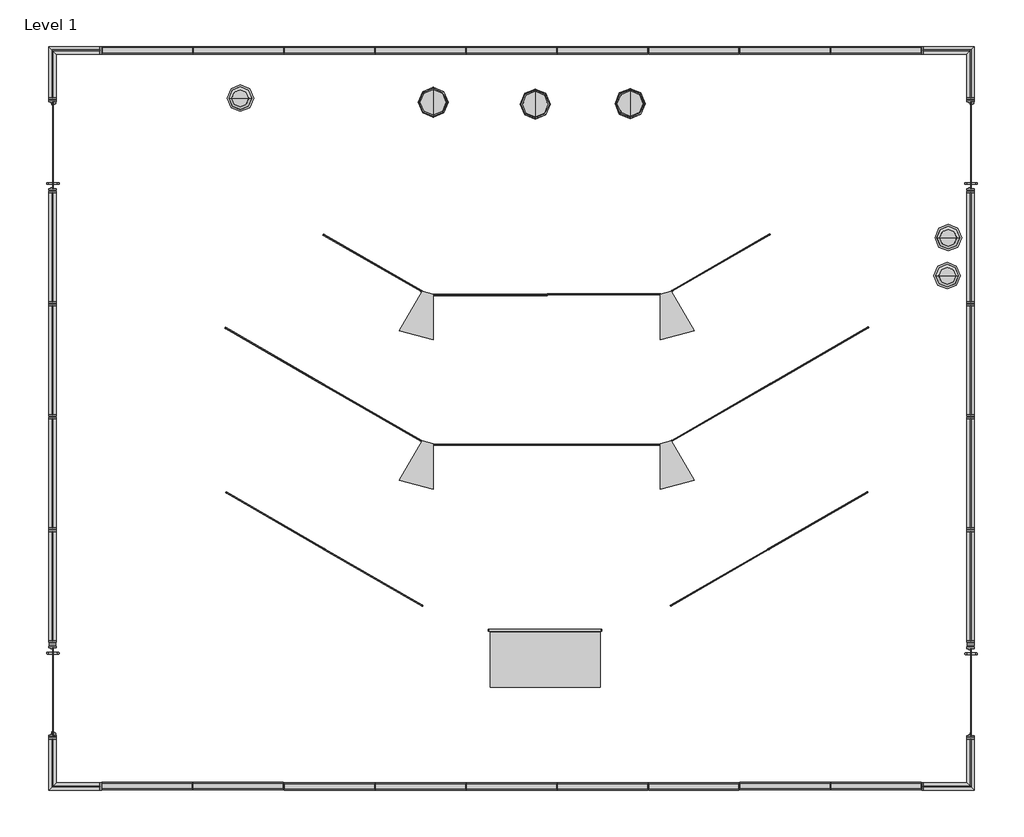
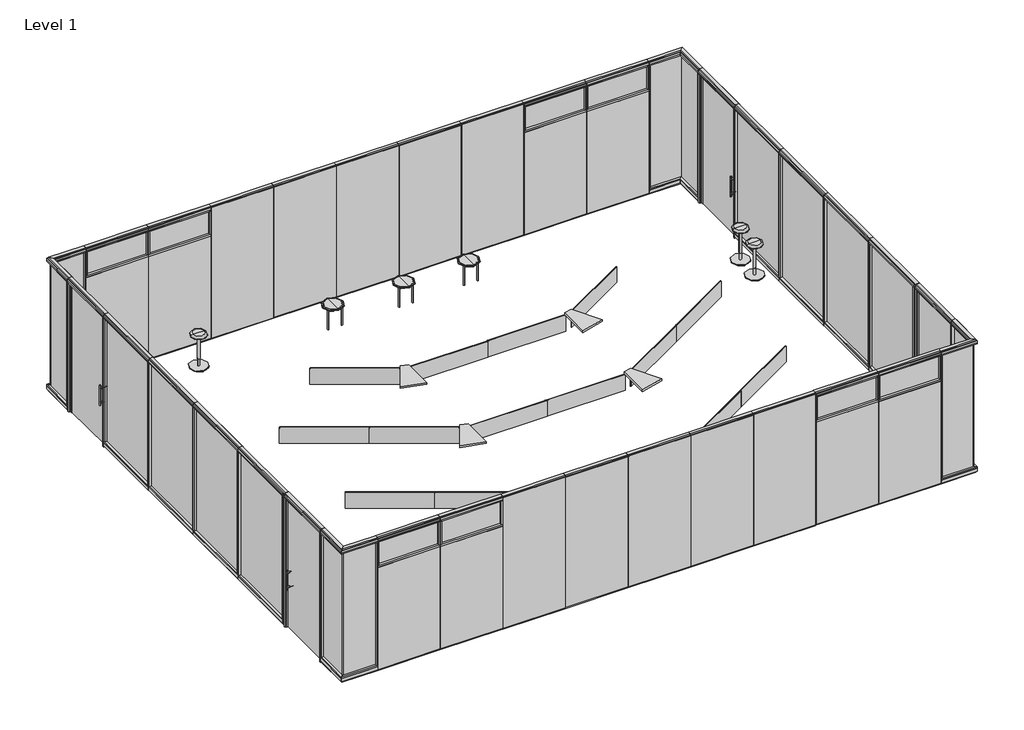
# One storey, incomplete: 60 furniture elements.
"""IFC4 building model written with IfcOpenShell, lengths in millimetres."""

from ifc_helpers import new_model, si_unit, origin, place, context, project, spatial, transform, mapped, element, save
from components import furniture_16in_d_table_f877d0f4, furniture_3abc578a, furniture_bc88773f, furniture_14a34abc, furniture_8766b1b4, furniture_6eaf9f50, furniture_9d4b2f2e, furniture_3334d8ed, furniture_c41c0817, furniture_5523d685, furniture_dead7d80, haworth_belongplus_screen_back_screen_fe709fc9, furniture_c5e95a2a, haworth_planes_modestypanel_screen_50w_13h_a9739d11, haworth_planes_modestypanel_screen_50w_13h_d00a2eeb, haworth_planes_trainingtable_pie_24_deep_1534c981, haworth_planes_trainingtable_pie_24_deep_74494f69, haworth_tilt_stool_tilt_fa742e71

model = new_model("IFC4")

# Units and contexts
model_context = context("Model", 3, world=origin())
ifc_project = project(units=[si_unit("LENGTHUNIT", "METRE", prefix="MILLI")], contexts=[model_context])

# Site, building, storey
site = spatial("IfcSite", under=ifc_project)
building = spatial("IfcBuilding", under=site)
storey = spatial("IfcBuildingStorey", under=building, Name="Level 1", Elevation=0.0)

# Furniture
placement = place(None, origin())
furniture_16in_d_table_shape = furniture_16in_d_table_f877d0f4(model_context)
element("IfcFurniture", 1, ObjectType="Haworth_Openest_SprigTable_Round : 16in D Table", at=placement, inside=storey, context=model_context, shape_type="MappedRepresentation", body=[
    mapped(furniture_16in_d_table_shape, transform((11340.428935, 4077.0260412, 0.0), x_axis=(0.0, 1.0, 0.0), y_axis=(-1.0, 0.0, 0.0), z_axis=(0.0, 0.0, 1.0))),
])
element("IfcFurniture", 2, ObjectType="Haworth_Openest_SprigTable_Round : 16in D Table", at=placement, inside=storey, context=model_context, shape_type="MappedRepresentation", body=[
    mapped(furniture_16in_d_table_shape, transform((12707.6865927, 4052.8008033, 0.0), x_axis=(0.0, 1.0, 0.0), y_axis=(-1.0, 0.0, 0.0), z_axis=(0.0, 0.0, 1.0))),
])
element("IfcFurniture", 3, ObjectType="Haworth_Openest_SprigTable_Round : 16in D Table", at=placement, inside=storey, context=model_context, shape_type="MappedRepresentation", body=[
    mapped(furniture_16in_d_table_shape, transform((13977.9899065, 4059.9192647, 0.0), x_axis=(0.0, 1.0, 0.0), y_axis=(-1.0, 0.0, 0.0), z_axis=(0.0, 0.0, 1.0))),
])
furniture_shape = furniture_3abc578a(model_context)
element("IfcFurniture", 4, ObjectType="Haworth_Enclose_Wall_GlassCorner : 25\" x 108\"_90 Degree", at=placement, inside=storey, context=model_context, shape_type="MappedRepresentation", body=[
    mapped(furniture_shape, transform((6249.2575071, 4407.4937425, 0.0), x_axis=(1.1924877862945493e-08, -0.9999999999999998, 0.0), y_axis=(0.9999999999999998, 1.1924877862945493e-08, 0.0), z_axis=(0.0, 0.0, 1.0))),
])
element("IfcFurniture", 5, ObjectType="Haworth_Enclose_Wall_GlassCorner : 25\" x 108\"_90 Degree", at=placement, inside=storey, context=model_context, shape_type="MappedRepresentation", body=[
    mapped(furniture_shape, transform((18173.5032278, 4767.8126048, 0.0), x_axis=(-0.9999999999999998, -1.1924872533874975e-08, 0.0), y_axis=(1.1924872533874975e-08, -0.9999999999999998, 0.0), z_axis=(0.0, 0.0, 1.0))),
])
element("IfcFurniture", 6, ObjectType="Haworth_Enclose_Wall_GlassCorner : 25\" x 108\"_90 Degree", at=placement, inside=storey, context=model_context, shape_type="MappedRepresentation", body=[
    mapped(furniture_shape, transform((18533.822063, -4718.0330264, 0.0), x_axis=(-1.1924867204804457e-08, 0.9999999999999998, 0.0), y_axis=(-0.9999999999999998, -1.1924867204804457e-08, 0.0), z_axis=(0.0, 0.0, 1.0))),
])
element("IfcFurniture", 7, ObjectType="Haworth_Enclose_Wall_GlassCorner : 25\" x 108\"_90 Degree", at=placement, inside=storey, context=model_context, shape_type="MappedRepresentation", body=[
    mapped(furniture_shape, transform((6609.5763119, -5078.3519553, 0.0), x_axis=(0.9999999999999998, 1.1924861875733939e-08, 0.0), y_axis=(-1.1924861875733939e-08, 0.9999999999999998, 0.0), z_axis=(0.0, 0.0, 1.0))),
])
furniture_2_shape = furniture_bc88773f(model_context)
element("IfcFurniture", 8, ObjectType="Haworth_Enclose_Wall_SolidTransom : 36\" x 108\"", at=placement, inside=storey, context=model_context, shape_type="MappedRepresentation", body=[
    mapped(furniture_2_shape, transform((7570.7762962, -5073.3517604, 0.0), x_axis=(1.0, 0.0, 0.0), y_axis=(0.0, 1.0, 0.0), z_axis=(0.0, 0.0, 1.0))),
])
element("IfcFurniture", 9, ObjectType="Haworth_Enclose_Wall_SolidTransom : 36\" x 108\"", at=placement, inside=storey, context=model_context, shape_type="MappedRepresentation", body=[
    mapped(furniture_2_shape, transform((16113.1763035, -5073.3515245, 0.0), x_axis=(1.0, 0.0, 0.0), y_axis=(0.0, 1.0, 0.0), z_axis=(0.0, 0.0, 1.0))),
])
furniture_3_shape = furniture_14a34abc(model_context)
element("IfcFurniture", 10, ObjectType="Haworth_Enclose_Wall_SolidTransom : 36\" x 108\"", at=placement, inside=storey, context=model_context, shape_type="MappedRepresentation", body=[
    mapped(furniture_3_shape, transform((8669.9032503, -5073.3517604, 0.0), x_axis=(-1.0, 0.0, 0.0), y_axis=(0.0, -1.0, 0.0), z_axis=(0.0, 0.0, 1.0))),
])
element("IfcFurniture", 11, ObjectType="Haworth_Enclose_Wall_SolidTransom : 36\" x 108\"", at=placement, inside=storey, context=model_context, shape_type="MappedRepresentation", body=[
    mapped(furniture_3_shape, transform((17212.3032577, -5073.3515245, 0.0), x_axis=(-1.0, 0.0, 0.0), y_axis=(0.0, -1.0, 0.0), z_axis=(0.0, 0.0, 1.0))),
])
element("IfcFurniture", 12, ObjectType="Haworth_Enclose_Wall_SolidTransom : 36\" x 108\"", at=placement, inside=storey, context=model_context, shape_type="MappedRepresentation", body=[
    mapped(furniture_2_shape, transform((7574.7763041, 4776.8479949, 0.0), x_axis=(1.0, 0.0, 0.0), y_axis=(0.0, 1.0, 0.0), z_axis=(0.0, 0.0, 1.0))),
])
element("IfcFurniture", 13, ObjectType="Haworth_Enclose_Wall_SolidTransom : 36\" x 108\"", at=placement, inside=storey, context=model_context, shape_type="MappedRepresentation", body=[
    mapped(furniture_2_shape, transform((16109.1763129, 4776.847942, 0.0), x_axis=(1.0, 0.0, 0.0), y_axis=(0.0, 1.0, 0.0), z_axis=(0.0, 0.0, 1.0))),
])
element("IfcFurniture", 14, ObjectType="Haworth_Enclose_Wall_SolidTransom : 36\" x 108\"", at=placement, inside=storey, context=model_context, shape_type="MappedRepresentation", body=[
    mapped(furniture_3_shape, transform((8673.9032582, 4776.8479949, 0.0), x_axis=(-1.0, 0.0, 0.0), y_axis=(0.0, -1.0, 0.0), z_axis=(0.0, 0.0, 1.0))),
])
element("IfcFurniture", 15, ObjectType="Haworth_Enclose_Wall_SolidTransom : 36\" x 108\"", at=placement, inside=storey, context=model_context, shape_type="MappedRepresentation", body=[
    mapped(furniture_3_shape, transform((17208.3032671, 4776.847942, 0.0), x_axis=(-1.0, 0.0, 0.0), y_axis=(0.0, -1.0, 0.0), z_axis=(0.0, 0.0, 1.0))),
])
furniture_4_shape = furniture_8766b1b4(model_context)
element("IfcFurniture", 16, ObjectType="Haworth_EncloseFrameless_Door_SingleSwing : 48\" x 108\"", at=placement, inside=storey, context=model_context, shape_type="MappedRepresentation", body=[
    mapped(furniture_4_shape, transform((18533.8217463, 3562.3668493, 0.0), x_axis=(-1.1924849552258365e-08, 0.9999999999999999, 0.0), y_axis=(-0.9999999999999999, -1.1924849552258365e-08, 0.0), z_axis=(0.0, 0.0, 1.0))),
])
element("IfcFurniture", 17, ObjectType="Haworth_EncloseFrameless_Door_SingleSwing : 48\" x 108\"", at=placement, inside=storey, context=model_context, shape_type="MappedRepresentation", body=[
    mapped(furniture_4_shape, transform((6240.2216446, 3562.3668493, 0.0), x_axis=(-1.1924849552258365e-08, 0.9999999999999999, 0.0), y_axis=(-0.9999999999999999, -1.1924849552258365e-08, 0.0), z_axis=(0.0, 0.0, 1.0))),
])
furniture_5_shape = furniture_6eaf9f50(model_context)
element("IfcFurniture", 18, ObjectType="Haworth_EncloseFrameless_Door_SingleSwing : 48\" x 108\"", at=placement, inside=storey, context=model_context, shape_type="MappedRepresentation", body=[
    mapped(furniture_5_shape, transform((18533.8220676, -3881.8934858, 0.0), x_axis=(1.1924849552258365e-08, -0.9999999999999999, 0.0), y_axis=(0.9999999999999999, 1.1924849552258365e-08, 0.0), z_axis=(0.0, 0.0, 1.0))),
])
element("IfcFurniture", 19, ObjectType="Haworth_EncloseFrameless_Door_SingleSwing : 48\" x 108\"", at=placement, inside=storey, context=model_context, shape_type="MappedRepresentation", body=[
    mapped(furniture_5_shape, transform((6240.2216266, -3872.9061982, 0.0), x_axis=(1.1924849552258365e-08, -0.9999999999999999, 0.0), y_axis=(0.9999999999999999, 1.1924849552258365e-08, 0.0), z_axis=(0.0, 0.0, 1.0))),
])
furniture_6_shape = furniture_9d4b2f2e(model_context)
element("IfcFurniture", 20, ObjectType="Haworth_Enclose_Wall_Solid : 48\" x 108\"", at=placement, inside=storey, context=model_context, shape_type="MappedRepresentation", body=[
    mapped(furniture_6_shape, transform((10013.1763041, -5078.3517382, 0.0), x_axis=(1.0, 0.0, 0.0), y_axis=(0.0, 1.0, 0.0), z_axis=(0.0, 0.0, 1.0))),
])
element("IfcFurniture", 21, ObjectType="Haworth_Enclose_Wall_Solid : 48\" x 108\"", at=placement, inside=storey, context=model_context, shape_type="MappedRepresentation", body=[
    mapped(furniture_6_shape, transform((12451.5763041, -5078.3517382, 0.0), x_axis=(1.0, 0.0, 0.0), y_axis=(0.0, 1.0, 0.0), z_axis=(0.0, 0.0, 1.0))),
])
element("IfcFurniture", 22, ObjectType="Haworth_Enclose_Wall_Solid : 48\" x 108\"", at=placement, inside=storey, context=model_context, shape_type="MappedRepresentation", body=[
    mapped(furniture_6_shape, transform((14889.9763041, -5078.3517382, 0.0), x_axis=(1.0, 0.0, 0.0), y_axis=(0.0, 1.0, 0.0), z_axis=(0.0, 0.0, 1.0))),
])
furniture_7_shape = furniture_3334d8ed(model_context)
element("IfcFurniture", 23, ObjectType="Haworth_Enclose_Wall_Solid : 48\" x 108\"", at=placement, inside=storey, context=model_context, shape_type="MappedRepresentation", body=[
    mapped(furniture_7_shape, transform((11112.3032582, -5078.3517382, 0.0), x_axis=(-1.0, 0.0, 0.0), y_axis=(0.0, -1.0, 0.0), z_axis=(0.0, 0.0, 1.0))),
])
element("IfcFurniture", 24, ObjectType="Haworth_Enclose_Wall_Solid : 48\" x 108\"", at=placement, inside=storey, context=model_context, shape_type="MappedRepresentation", body=[
    mapped(furniture_7_shape, transform((13550.7032582, -5078.3517382, 0.0), x_axis=(-1.0, 0.0, 0.0), y_axis=(0.0, -1.0, 0.0), z_axis=(0.0, 0.0, 1.0))),
])
element("IfcFurniture", 25, ObjectType="Haworth_Enclose_Wall_Solid : 48\" x 108\"", at=placement, inside=storey, context=model_context, shape_type="MappedRepresentation", body=[
    mapped(furniture_6_shape, transform((10013.1761192, 4776.847942, 0.0), x_axis=(1.0, 0.0, 0.0), y_axis=(0.0, 1.0, 0.0), z_axis=(0.0, 0.0, 1.0))),
])
element("IfcFurniture", 26, ObjectType="Haworth_Enclose_Wall_Solid : 48\" x 108\"", at=placement, inside=storey, context=model_context, shape_type="MappedRepresentation", body=[
    mapped(furniture_6_shape, transform((12451.5761192, 4776.847942, 0.0), x_axis=(1.0, 0.0, 0.0), y_axis=(0.0, 1.0, 0.0), z_axis=(0.0, 0.0, 1.0))),
])
element("IfcFurniture", 27, ObjectType="Haworth_Enclose_Wall_Solid : 48\" x 108\"", at=placement, inside=storey, context=model_context, shape_type="MappedRepresentation", body=[
    mapped(furniture_6_shape, transform((14889.9761192, 4776.847942, 0.0), x_axis=(1.0, 0.0, 0.0), y_axis=(0.0, 1.0, 0.0), z_axis=(0.0, 0.0, 1.0))),
])
element("IfcFurniture", 28, ObjectType="Haworth_Enclose_Wall_Solid : 48\" x 108\"", at=placement, inside=storey, context=model_context, shape_type="MappedRepresentation", body=[
    mapped(furniture_7_shape, transform((11112.3030733, 4776.847942, 0.0), x_axis=(-1.0, 0.0, 0.0), y_axis=(0.0, -1.0, 0.0), z_axis=(0.0, 0.0, 1.0))),
])
element("IfcFurniture", 29, ObjectType="Haworth_Enclose_Wall_Solid : 48\" x 108\"", at=placement, inside=storey, context=model_context, shape_type="MappedRepresentation", body=[
    mapped(furniture_7_shape, transform((13550.7030733, 4776.847942, 0.0), x_axis=(-1.0, 0.0, 0.0), y_axis=(0.0, -1.0, 0.0), z_axis=(0.0, 0.0, 1.0))),
])
furniture_8_shape = furniture_c41c0817(model_context)
element("IfcFurniture", 30, ObjectType="Haworth_Enclose_Wall_Glass : 60\" x 108\"", at=placement, inside=storey, context=model_context, shape_type="MappedRepresentation", body=[
    mapped(furniture_8_shape, transform((6240.222068, 2193.8172457, 0.0), x_axis=(-1.192487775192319e-08, 0.9999999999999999, 0.0), y_axis=(-0.9999999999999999, -1.192487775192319e-08, 0.0), z_axis=(0.0, 0.0, 1.0))),
])
element("IfcFurniture", 31, ObjectType="Haworth_Enclose_Wall_Glass : 60\" x 108\"", at=placement, inside=storey, context=model_context, shape_type="MappedRepresentation", body=[
    mapped(furniture_8_shape, transform((6240.2221043, -828.7827543, 0.0), x_axis=(-1.19248777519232e-08, 1.0000000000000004, 0.0), y_axis=(-1.0000000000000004, -1.19248777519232e-08, 0.0), z_axis=(0.0, 0.0, 1.0))),
])
element("IfcFurniture", 32, ObjectType="Haworth_Enclose_Wall_Glass : 60\" x 108\"", at=placement, inside=storey, context=model_context, shape_type="MappedRepresentation", body=[
    mapped(furniture_8_shape, transform((18533.8219094, 2193.8172457, 0.0), x_axis=(-1.192487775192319e-08, 0.9999999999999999, 0.0), y_axis=(-0.9999999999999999, -1.192487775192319e-08, 0.0), z_axis=(0.0, 0.0, 1.0))),
])
element("IfcFurniture", 33, ObjectType="Haworth_Enclose_Wall_Glass : 60\" x 108\"", at=placement, inside=storey, context=model_context, shape_type="MappedRepresentation", body=[
    mapped(furniture_8_shape, transform((18533.8219458, -828.7827543, 0.0), x_axis=(-1.19248777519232e-08, 1.0000000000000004, 0.0), y_axis=(-1.0000000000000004, -1.19248777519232e-08, 0.0), z_axis=(0.0, 0.0, 1.0))),
])
furniture_9_shape = furniture_5523d685(model_context)
element("IfcFurniture", 34, ObjectType="Haworth_Enclose_Wall_Glass : 60\" x 108\"", at=placement, inside=storey, context=model_context, shape_type="MappedRepresentation", body=[
    mapped(furniture_9_shape, transform((6240.2220874, 562.4441998, 0.0), x_axis=(1.1924877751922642e-08, -1.0000000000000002, 0.0), y_axis=(1.0000000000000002, 1.1924877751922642e-08, 0.0), z_axis=(0.0, 0.0, 1.0))),
])
element("IfcFurniture", 35, ObjectType="Haworth_Enclose_Wall_Glass : 60\" x 108\"", at=placement, inside=storey, context=model_context, shape_type="MappedRepresentation", body=[
    mapped(furniture_9_shape, transform((18533.8219289, 562.4441998, 0.0), x_axis=(1.1924877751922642e-08, -1.0000000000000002, 0.0), y_axis=(1.0000000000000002, 1.1924877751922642e-08, 0.0), z_axis=(0.0, 0.0, 1.0))),
])
furniture_10_shape = furniture_dead7d80(model_context)
element("IfcFurniture", 36, ObjectType="Haworth_Enclose_Wall_Glass : 60\" x 108\"", at=placement, inside=storey, context=model_context, shape_type="MappedRepresentation", body=[
    mapped(furniture_10_shape, transform((6240.2221238, -2460.1558002, 0.0), x_axis=(1.1924877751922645e-08, -1.0000000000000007, 0.0), y_axis=(1.0000000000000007, 1.1924877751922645e-08, 0.0), z_axis=(0.0, 0.0, 1.0))),
])
element("IfcFurniture", 37, ObjectType="Haworth_Enclose_Wall_Glass : 60\" x 108\"", at=placement, inside=storey, context=model_context, shape_type="MappedRepresentation", body=[
    mapped(furniture_10_shape, transform((18533.8219652, -2460.1558002, 0.0), x_axis=(1.1924877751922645e-08, -1.0000000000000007, 0.0), y_axis=(1.0000000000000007, 1.1924877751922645e-08, 0.0), z_axis=(0.0, 0.0, 1.0))),
])
haworth_belongplus_screen_back_screen_shape = haworth_belongplus_screen_back_screen_fe709fc9(model_context)
element("IfcFurniture", 38, ObjectType="Haworth_BelongPlus_Screen : Back Screen", at=placement, inside=storey, context=model_context, shape_type="MappedRepresentation", body=[
    mapped(haworth_belongplus_screen_back_screen_shape, transform((12871.2042181, -2992.2904952, 88.9), x_axis=(1.0, 0.0, 0.0), y_axis=(0.0, 1.0, 0.0), z_axis=(0.0, 0.0, 1.0))),
])
furniture_11_shape = furniture_c5e95a2a(model_context)
element("IfcFurniture", 39, ObjectType="Haworth_Planes_HeightAdjustTable_Rectangular NEW : 58\" x 29\"", at=placement, inside=storey, context=model_context, shape_type="MappedRepresentation", body=[
    mapped(furniture_11_shape, transform((12839.4516279, -3384.9640321, 0.0), x_axis=(1.0, 0.0, 0.0), y_axis=(0.0, 1.0, 0.0), z_axis=(0.0, 0.0, 1.0))),
])
haworth_planes_modestypanel_screen_50w_13h_shape = haworth_planes_modestypanel_screen_50w_13h_a9739d11(model_context)
element("IfcFurniture", 40, ObjectType="Haworth_Planes_ModestyPanel : Screen - 50w 13h", at=placement, inside=storey, context=model_context, shape_type="MappedRepresentation", body=[
    mapped(haworth_planes_modestypanel_screen_50w_13h_shape, transform((11887.561449, 1696.1513436, 365.371936), x_axis=(1.0, 0.0, 0.0), y_axis=(0.0, 1.0, 0.0), z_axis=(0.0, 0.0, 1.0))),
])
element("IfcFurniture", 41, ObjectType="Haworth_Planes_ModestyPanel : Screen - 50w 13h", at=placement, inside=storey, context=model_context, shape_type="MappedRepresentation", body=[
    mapped(haworth_planes_modestypanel_screen_50w_13h_shape, transform((11887.561449, -310.4486564, 365.371936), x_axis=(1.0, 0.0, 0.0), y_axis=(0.0, 1.0, 0.0), z_axis=(0.0, 0.0, 1.0))),
])
haworth_planes_modestypanel_screen_50w_13h_2_shape = haworth_planes_modestypanel_screen_50w_13h_d00a2eeb(model_context)
element("IfcFurniture", 42, ObjectType="Haworth_Planes_ModestyPanel : Screen - 50w 13h", at=placement, inside=storey, context=model_context, shape_type="MappedRepresentation", body=[
    mapped(haworth_planes_modestypanel_screen_50w_13h_2_shape, transform((13411.561449, 1304.5818905, 366.1011081), x_axis=(1.0, 0.0, 0.0), y_axis=(0.0, 1.0, 0.0), z_axis=(0.0, 0.0, 1.0))),
])
element("IfcFurniture", 43, ObjectType="Haworth_Planes_ModestyPanel : Screen - 50w 13h", at=placement, inside=storey, context=model_context, shape_type="MappedRepresentation", body=[
    mapped(haworth_planes_modestypanel_screen_50w_13h_2_shape, transform((15105.4068324, 1648.6071992, 366.1011081), x_axis=(0.8660254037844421, 0.4999999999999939, 0.0), y_axis=(-0.4999999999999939, 0.8660254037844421, 0.0), z_axis=(0.0, 0.0, 1.0))),
])
element("IfcFurniture", 44, ObjectType="Haworth_Planes_ModestyPanel : Screen - 50w 13h", at=placement, inside=storey, context=model_context, shape_type="MappedRepresentation", body=[
    mapped(haworth_planes_modestypanel_screen_50w_13h_2_shape, transform((10242.2723129, 1859.8590786, 366.1011081), x_axis=(0.8660254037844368, -0.5000000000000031, 0.0), y_axis=(0.5000000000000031, 0.8660254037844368, 0.0), z_axis=(0.0, 0.0, 1.0))),
])
element("IfcFurniture", 45, ObjectType="Haworth_Planes_ModestyPanel : Screen - 50w 13h", at=placement, inside=storey, context=model_context, shape_type="MappedRepresentation", body=[
    mapped(haworth_planes_modestypanel_screen_50w_13h_2_shape, transform((8929.7352727, 610.7054553, 366.1011081), x_axis=(0.8660254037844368, -0.5000000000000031, 0.0), y_axis=(0.5000000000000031, 0.8660254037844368, 0.0), z_axis=(0.0, 0.0, 1.0))),
])
element("IfcFurniture", 46, ObjectType="Haworth_Planes_ModestyPanel : Screen - 50w 13h", at=placement, inside=storey, context=model_context, shape_type="MappedRepresentation", body=[
    mapped(haworth_planes_modestypanel_screen_50w_13h_2_shape, transform((10244.4509111, -148.3463121, 366.1011081), x_axis=(0.8660254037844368, -0.5000000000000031, 0.0), y_axis=(0.5000000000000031, 0.8660254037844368, 0.0), z_axis=(0.0, 0.0, 1.0))),
])
element("IfcFurniture", 47, ObjectType="Haworth_Planes_ModestyPanel : Screen - 50w 13h", at=placement, inside=storey, context=model_context, shape_type="MappedRepresentation", body=[
    mapped(haworth_planes_modestypanel_screen_50w_13h_2_shape, transform((13411.561449, -708.3681095, 366.1011081), x_axis=(1.0, 0.0, 0.0), y_axis=(0.0, 1.0, 0.0), z_axis=(0.0, 0.0, 1.0))),
])
element("IfcFurniture", 48, ObjectType="Haworth_Planes_ModestyPanel : Screen - 50w 13h", at=placement, inside=storey, context=model_context, shape_type="MappedRepresentation", body=[
    mapped(haworth_planes_modestypanel_screen_50w_13h_2_shape, transform((16423.4976164, 403.0072985, 366.1011081), x_axis=(0.8660254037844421, 0.4999999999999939, 0.0), y_axis=(-0.4999999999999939, 0.8660254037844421, 0.0), z_axis=(0.0, 0.0, 1.0))),
])
element("IfcFurniture", 49, ObjectType="Haworth_Planes_ModestyPanel : Screen - 50w 13h", at=placement, inside=storey, context=model_context, shape_type="MappedRepresentation", body=[
    mapped(haworth_planes_modestypanel_screen_50w_13h_2_shape, transform((15103.6749121, -358.9927208, 366.1011081), x_axis=(0.8660254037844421, 0.4999999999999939, 0.0), y_axis=(-0.4999999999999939, 0.8660254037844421, 0.0), z_axis=(0.0, 0.0, 1.0))),
])
element("IfcFurniture", 50, ObjectType="Haworth_Planes_ModestyPanel : Screen - 50w 13h", at=placement, inside=storey, context=model_context, shape_type="MappedRepresentation", body=[
    mapped(haworth_planes_modestypanel_screen_50w_13h_2_shape, transform((8938.8995162, -1591.4294122, 366.1011081), x_axis=(0.8660254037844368, -0.5000000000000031, 0.0), y_axis=(0.5000000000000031, 0.8660254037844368, 0.0), z_axis=(0.0, 0.0, 1.0))),
])
element("IfcFurniture", 51, ObjectType="Haworth_Planes_ModestyPanel : Screen - 50w 13h", at=placement, inside=storey, context=model_context, shape_type="MappedRepresentation", body=[
    mapped(haworth_planes_modestypanel_screen_50w_13h_2_shape, transform((10253.6151546, -2350.4811796, 366.1011081), x_axis=(0.8660254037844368, -0.5000000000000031, 0.0), y_axis=(0.5000000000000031, 0.8660254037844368, 0.0), z_axis=(0.0, 0.0, 1.0))),
])
element("IfcFurniture", 52, ObjectType="Haworth_Planes_ModestyPanel : Screen - 50w 13h", at=placement, inside=storey, context=model_context, shape_type="MappedRepresentation", body=[
    mapped(haworth_planes_modestypanel_screen_50w_13h_2_shape, transform((16411.6948819, -1803.4126865, 366.1011081), x_axis=(0.8660254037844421, 0.4999999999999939, 0.0), y_axis=(-0.4999999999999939, 0.8660254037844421, 0.0), z_axis=(0.0, 0.0, 1.0))),
])
element("IfcFurniture", 53, ObjectType="Haworth_Planes_ModestyPanel : Screen - 50w 13h", at=placement, inside=storey, context=model_context, shape_type="MappedRepresentation", body=[
    mapped(haworth_planes_modestypanel_screen_50w_13h_2_shape, transform((15091.8721776, -2565.4127057, 366.1011081), x_axis=(0.8660254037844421, 0.4999999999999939, 0.0), y_axis=(-0.4999999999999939, 0.8660254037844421, 0.0), z_axis=(0.0, 0.0, 1.0))),
])
haworth_planes_trainingtable_pie_24_deep_shape = haworth_planes_trainingtable_pie_24_deep_1534c981(model_context)
element("IfcFurniture", 54, ObjectType="Haworth_Planes_TrainingTable_Pie : 24 Deep", at=placement, inside=storey, context=model_context, shape_type="MappedRepresentation", body=[
    mapped(haworth_planes_trainingtable_pie_24_deep_shape, transform((11231.7709935, 1460.1954487, 0.0), x_axis=(0.9659258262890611, -0.25881904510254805, 0.0), y_axis=(0.25881904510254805, 0.9659258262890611, 0.0), z_axis=(0.0, 0.0, 1.0))),
])
element("IfcFurniture", 55, ObjectType="Haworth_Planes_TrainingTable_Pie : 24 Deep", at=placement, inside=storey, context=model_context, shape_type="MappedRepresentation", body=[
    mapped(haworth_planes_trainingtable_pie_24_deep_shape, transform((11231.7709935, -546.4045513, 0.0), x_axis=(0.9659258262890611, -0.25881904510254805, 0.0), y_axis=(0.25881904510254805, 0.9659258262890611, 0.0), z_axis=(0.0, 0.0, 1.0))),
])
haworth_planes_trainingtable_pie_24_deep_2_shape = haworth_planes_trainingtable_pie_24_deep_74494f69(model_context)
element("IfcFurniture", 56, ObjectType="Haworth_Planes_TrainingTable_Pie : 24 Deep", at=placement, inside=storey, context=model_context, shape_type="MappedRepresentation", body=[
    mapped(haworth_planes_trainingtable_pie_24_deep_2_shape, transform((14491.9769121, 1460.0727474, 0.0), x_axis=(-0.9659258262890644, -0.25881904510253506, 0.0), y_axis=(0.25881904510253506, -0.9659258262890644, 0.0), z_axis=(0.0, 0.0, 1.0))),
])
element("IfcFurniture", 57, ObjectType="Haworth_Planes_TrainingTable_Pie : 24 Deep", at=placement, inside=storey, context=model_context, shape_type="MappedRepresentation", body=[
    mapped(haworth_planes_trainingtable_pie_24_deep_2_shape, transform((14491.9769121, -546.5272526, 0.0), x_axis=(-0.9659258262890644, -0.25881904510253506, 0.0), y_axis=(0.25881904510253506, -0.9659258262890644, 0.0), z_axis=(0.0, 0.0, 1.0))),
])
haworth_tilt_stool_tilt_shape = haworth_tilt_stool_tilt_fa742e71(model_context)
element("IfcFurniture", 58, ObjectType="Haworth_Tilt_Stool : Tilt", at=placement, inside=storey, context=model_context, shape_type="MappedRepresentation", body=[
    mapped(haworth_tilt_stool_tilt_shape, transform((8760.2237144, 4132.6227026, 0.0), x_axis=(1.0, 0.0, 0.0), y_axis=(0.0, 1.0, 0.0), z_axis=(0.0, 0.0, 1.0))),
])
element("IfcFurniture", 59, ObjectType="Haworth_Tilt_Stool : Tilt", at=placement, inside=storey, context=model_context, shape_type="MappedRepresentation", body=[
    mapped(haworth_tilt_stool_tilt_shape, transform((18239.1457566, 2265.0262778, 0.0), x_axis=(1.0, 0.0, 0.0), y_axis=(0.0, 1.0, 0.0), z_axis=(0.0, 0.0, 1.0))),
])
element("IfcFurniture", 60, ObjectType="Haworth_Tilt_Stool : Tilt", at=placement, inside=storey, context=model_context, shape_type="MappedRepresentation", body=[
    mapped(haworth_tilt_stool_tilt_shape, transform((18221.6764562, 1756.1385647, 0.0), x_axis=(1.0, 0.0, 0.0), y_axis=(0.0, 1.0, 0.0), z_axis=(0.0, 0.0, 1.0))),
])

save(model, "model.ifc")
